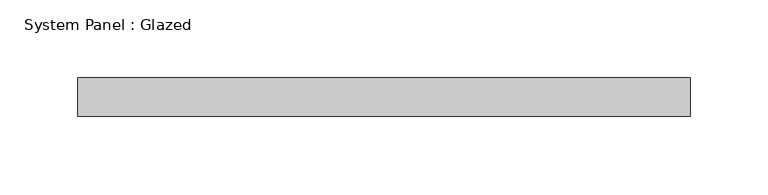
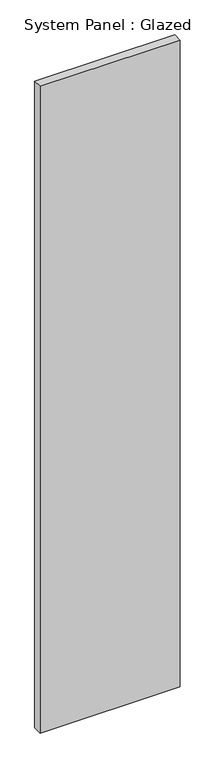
"""IFC4 building model written with IfcOpenShell, lengths in millimetres: plate geometry, System Panel : Glazed."""

from ifc_helpers import new_model, si_unit, origin, origin_with_axes, place, context, project, spatial, polyline, outline, extrude, source, transform, mapped, element, save


def system_panel_glazed_378b0738(model_context):
    return source(origin(), model_context, "Body", "SweptSolid", [
        extrude(outline(polyline([(197.3712947, 24.5), (-197.3712947, 24.5), (-197.3712947, 49.5), (197.3712947, 49.5), (197.3712947, 24.5)])), origin_with_axes(), (0.0, 0.0, 1.0), 1925.0),
    ])


if __name__ == "__main__":
    model = new_model("IFC4")
    model_context = context("Model", 3, world=origin())
    ifc_project = project(units=[si_unit("LENGTHUNIT", "METRE", prefix="MILLI")], contexts=[model_context])
    site = spatial("IfcSite", under=ifc_project)
    building = spatial("IfcBuilding", under=site)
    placement = place(None, origin())
    system_panel_glazed_shape = system_panel_glazed_378b0738(model_context)
    element("IfcPlate", 1, ObjectType="System Panel : Glazed", at=placement, inside=building, context=model_context, shape_type="MappedRepresentation", body=[
        mapped(system_panel_glazed_shape, transform((0.0, 0.0, 0.0), x_axis=(1.0, 0.0, 0.0), y_axis=(0.0, 1.0, 0.0), z_axis=(0.0, 0.0, 1.0))),
    ])
    save(model, "model.ifc")
